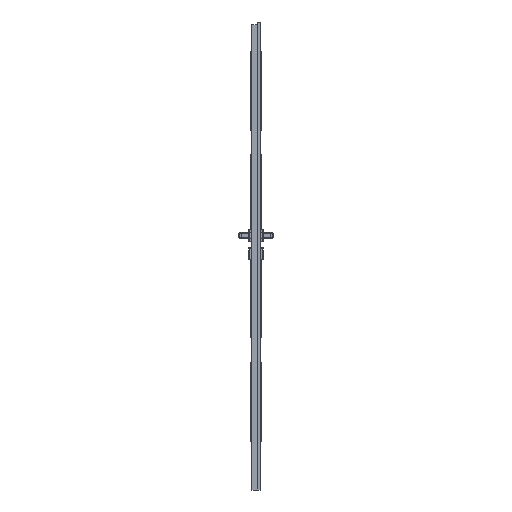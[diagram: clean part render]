
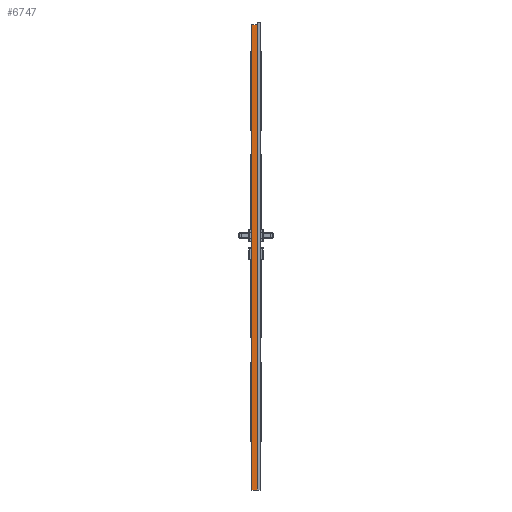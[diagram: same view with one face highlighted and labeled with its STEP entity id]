
A CAD part, left-side view. The second image highlights one B-rep face of the part: STEP entity #6747.
In plain terms, the highlighted planar face has unit normal (-1, 0, 0).
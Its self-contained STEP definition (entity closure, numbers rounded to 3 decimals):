
#6747=ADVANCED_FACE('',(#12547),#9998,.F.);
#9998=PLANE('',#66889);
#12547=FACE_OUTER_BOUND('',#16143,.T.);
#16143=EDGE_LOOP('',(#23121,#23122,#23123,#23124,#23125));
#23121=ORIENTED_EDGE('',*,*,#45505,.T.);
#23122=ORIENTED_EDGE('',*,*,#45989,.T.);
#23123=ORIENTED_EDGE('',*,*,#45948,.T.);
#23124=ORIENTED_EDGE('',*,*,#45946,.F.);
#23125=ORIENTED_EDGE('',*,*,#45988,.F.);
#39219=VERTEX_POINT('',#92098);
#39220=VERTEX_POINT('',#92100);
#39497=VERTEX_POINT('',#96053);
#39498=VERTEX_POINT('',#96055);
#39499=VERTEX_POINT('',#96059);
#45505=EDGE_CURVE('',#39220,#39219,#54321,.T.);
#45946=EDGE_CURVE('',#39497,#39498,#54591,.T.);
#45948=EDGE_CURVE('',#39499,#39498,#54593,.T.);
#45988=EDGE_CURVE('',#39220,#39497,#54629,.T.);
#45989=EDGE_CURVE('',#39219,#39499,#54630,.T.);
#54321=LINE('',#92099,#60395);
#54591=LINE('',#96054,#60665);
#54593=LINE('',#96058,#60667);
#54629=LINE('',#96133,#60703);
#54630=LINE('',#96135,#60704);
#60395=VECTOR('',#72196,1.);
#60665=VECTOR('',#72740,1.);
#60667=VECTOR('',#72744,1.);
#60703=VECTOR('',#72806,1.);
#60704=VECTOR('',#72809,1.);
#66889=AXIS2_PLACEMENT_3D('',#96136,#72810,#72811);
#72196=DIRECTION('',(0.,0.,-1.));
#72740=DIRECTION('',(0.,0.,-1.));
#72744=DIRECTION('',(0.,-1.,0.));
#72806=DIRECTION('',(0.,-1.,0.));
#72809=DIRECTION('',(0.,-0.707,-0.707));
#72810=DIRECTION('',(1.,0.,0.));
#72811=DIRECTION('',(0.,0.,-1.));
#92098=CARTESIAN_POINT('',(-309.,0.,2.));
#92099=CARTESIAN_POINT('',(-309.,0.,2030.));
#92100=CARTESIAN_POINT('',(-309.,0.,2017.));
#96053=CARTESIAN_POINT('',(-309.,-26.,2017.));
#96054=CARTESIAN_POINT('',(-309.,-26.,2030.));
#96055=CARTESIAN_POINT('',(-309.,-26.,0.));
#96058=CARTESIAN_POINT('',(-309.,0.,0.));
#96059=CARTESIAN_POINT('',(-309.,-2.,0.));
#96133=CARTESIAN_POINT('',(-309.,0.,2017.));
#96135=CARTESIAN_POINT('',(-309.,0.,2.));
#96136=CARTESIAN_POINT('',(-309.,0.,2030.));
